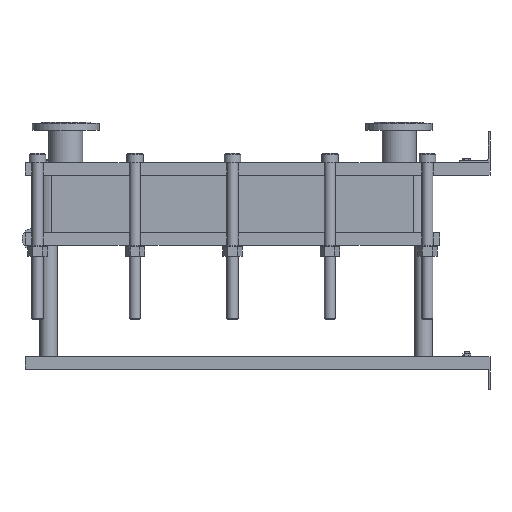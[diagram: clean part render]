
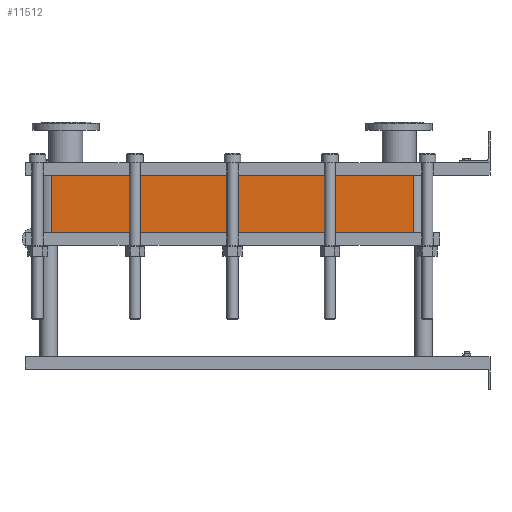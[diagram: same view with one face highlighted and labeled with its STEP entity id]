
A CAD part, left-side view. The second image highlights one B-rep face of the part: STEP entity #11512.
In plain terms, the highlighted planar face has unit normal (-1, 0, 0).
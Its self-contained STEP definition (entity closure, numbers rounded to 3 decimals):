
#1129=LINE('',#23232,#2102);
#1130=LINE('',#23236,#2103);
#1131=LINE('',#23238,#2104);
#1132=LINE('',#23239,#2105);
#2102=VECTOR('',#15887,10.);
#2103=VECTOR('',#15892,10.);
#2104=VECTOR('',#15893,10.);
#2105=VECTOR('',#15894,10.);
#3267=FACE_OUTER_BOUND('',#4093,.T.);
#4093=EDGE_LOOP('',(#10103,#10104,#10105,#10106));
#5642=VERTEX_POINT('',#23229);
#5643=VERTEX_POINT('',#23231);
#5644=VERTEX_POINT('',#23235);
#5645=VERTEX_POINT('',#23237);
#7159=EDGE_CURVE('',#5643,#5642,#1129,.T.);
#7161=EDGE_CURVE('',#5642,#5644,#1130,.T.);
#7162=EDGE_CURVE('',#5645,#5644,#1131,.T.);
#7163=EDGE_CURVE('',#5645,#5643,#1132,.T.);
#10103=ORIENTED_EDGE('',*,*,#7161,.T.);
#10104=ORIENTED_EDGE('',*,*,#7162,.F.);
#10105=ORIENTED_EDGE('',*,*,#7163,.T.);
#10106=ORIENTED_EDGE('',*,*,#7159,.T.);
#10857=PLANE('',#12751);
#11512=ADVANCED_FACE('',(#3267),#10857,.T.);
#12751=AXIS2_PLACEMENT_3D('',#23234,#15890,#15891);
#15887=DIRECTION('',(0.,0.,-1.));
#15890=DIRECTION('center_axis',(-1.,0.,0.));
#15891=DIRECTION('ref_axis',(0.,1.,0.));
#15892=DIRECTION('',(0.,-1.,0.));
#15893=DIRECTION('',(0.,0.,-1.));
#15894=DIRECTION('',(0.,1.,0.));
#23229=CARTESIAN_POINT('',(-200.,1414.,-186.3));
#23231=CARTESIAN_POINT('',(-200.,1414.,0.));
#23232=CARTESIAN_POINT('',(-200.,1414.,0.));
#23234=CARTESIAN_POINT('Origin',(-200.,248.,0.));
#23235=CARTESIAN_POINT('',(-200.,248.,-186.3));
#23236=CARTESIAN_POINT('',(-200.,539.5,-186.3));
#23237=CARTESIAN_POINT('',(-200.,248.,0.));
#23238=CARTESIAN_POINT('',(-200.,248.,0.));
#23239=CARTESIAN_POINT('',(-200.,248.,0.));
